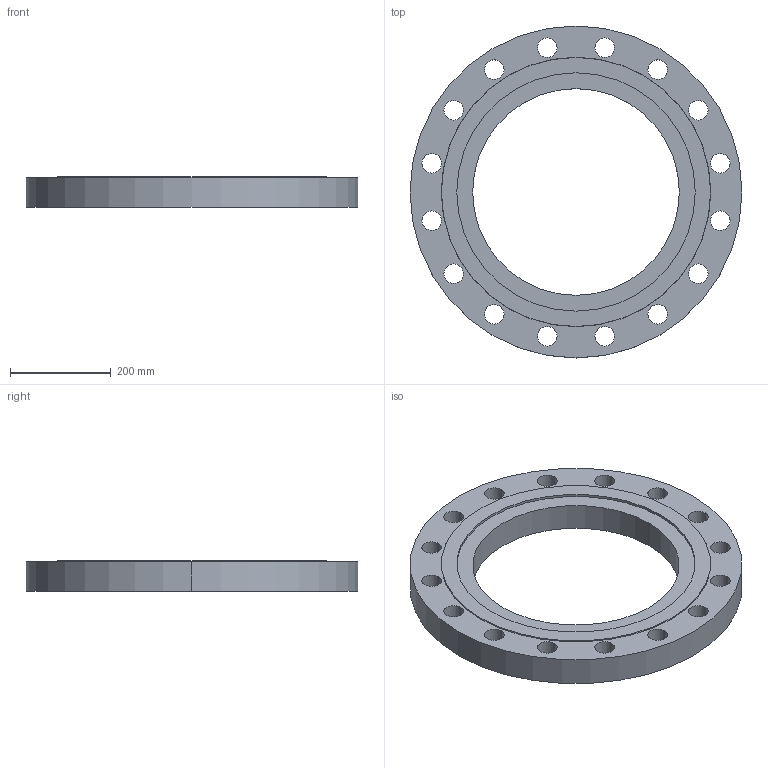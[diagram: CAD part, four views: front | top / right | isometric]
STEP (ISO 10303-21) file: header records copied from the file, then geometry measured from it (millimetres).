
FILE_DESCRIPTION (( 'STEP AP214' ), '1' );
FILE_NAME ('PN40 DN400 Type 01 - Type F Face.STEP', '2019-01-05T23:24:04', ( '' ), ( '' ), 'SwSTEP 2.0', 'SolidWorks 2019', '' );
FILE_SCHEMA (( 'AUTOMOTIVE_DESIGN' ));
Length unit declared in the file: millimetre
Products named in the file (1): PN40 DN400 Type 01 - Type F Face
Bounding box: 660 x 660 x 60 mm (x, y, z)
Volume: 11005377.6 mm3; surface area: 695916 mm2
Topology: 1 solids, 1 shells, 44 faces, 120 edges, 80 vertices
Faces by surface type: cylinder 38, plane 4, cone 2
Entity records: 1546 total; most frequent: DIRECTION 290, CARTESIAN_POINT 245, ORIENTED_EDGE 240, AXIS2_PLACEMENT_3D 125, EDGE_CURVE 120, CIRCLE 80, EDGE_LOOP 80, VERTEX_POINT 80
